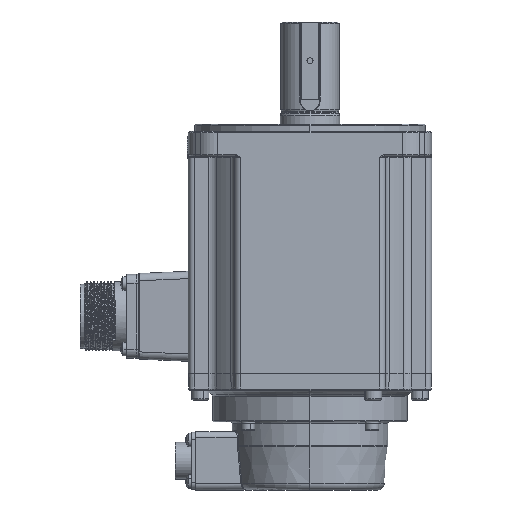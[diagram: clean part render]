
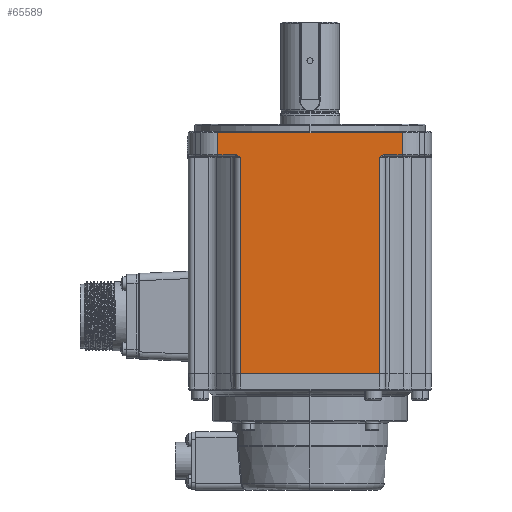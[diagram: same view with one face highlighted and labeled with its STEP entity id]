
A CAD part, left-side view. The second image highlights one B-rep face of the part: STEP entity #65589.
In plain terms, the highlighted planar face has unit normal (-1, 0, 0).
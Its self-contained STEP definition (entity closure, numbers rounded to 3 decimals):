
#1722 = CARTESIAN_POINT ( 'NONE',  ( -50., 37.858, -12.6 ) ) ;
#2697 = CARTESIAN_POINT ( 'NONE',  ( -50., -42., -12.6 ) ) ;
#4086 = EDGE_CURVE ( 'NONE', #58846, #28139, #80618, .T. ) ;
#4144 = CARTESIAN_POINT ( 'NONE',  ( -50., 28.5, -102.5 ) ) ;
#5948 = ORIENTED_EDGE ( 'NONE', *, *, #13281, .T. ) ;
#9329 = VERTEX_POINT ( 'NONE', #71200 ) ;
#10198 = DIRECTION ( 'NONE',  ( 0., -1., 0. ) ) ;
#11685 = VERTEX_POINT ( 'NONE', #65657 ) ;
#11743 = AXIS2_PLACEMENT_3D ( 'NONE', #90183, #45332, #60284 ) ;
#12784 = CARTESIAN_POINT ( 'NONE',  ( -50., -42., -12.6 ) ) ;
#13281 = EDGE_CURVE ( 'NONE', #11685, #58846, #84600, .T. ) ;
#16007 = DIRECTION ( 'NONE',  ( 0., 0., 1. ) ) ;
#17004 = VECTOR ( 'NONE', #36254, 1000. ) ;
#18494 = ORIENTED_EDGE ( 'NONE', *, *, #4086, .T. ) ;
#18644 = EDGE_CURVE ( 'NONE', #37072, #78942, #25271, .T. ) ;
#25199 = CARTESIAN_POINT ( 'NONE',  ( -50., 28.5, -13.6 ) ) ;
#25271 = LINE ( 'NONE', #70653, #93391 ) ;
#25467 = ORIENTED_EDGE ( 'NONE', *, *, #46512, .T. ) ;
#26052 = LINE ( 'NONE', #49460, #56905 ) ;
#26533 = DIRECTION ( 'NONE',  ( 0., -1., 0. ) ) ;
#26849 = CARTESIAN_POINT ( 'NONE',  ( -50., -37.858, -3.5 ) ) ;
#28139 = VERTEX_POINT ( 'NONE', #70992 ) ;
#28411 = CARTESIAN_POINT ( 'NONE',  ( -50., 37.858, -3.5 ) ) ;
#29198 = CARTESIAN_POINT ( 'NONE',  ( -50., 28.5, -13.6 ) ) ;
#30775 = VERTEX_POINT ( 'NONE', #1722 ) ;
#30845 = LINE ( 'NONE', #98687, #32527 ) ;
#31311 = ORIENTED_EDGE ( 'NONE', *, *, #69241, .T. ) ;
#31554 = CARTESIAN_POINT ( 'NONE',  ( -50., 37.858, -3.5 ) ) ;
#31949 = EDGE_CURVE ( 'NONE', #53447, #45245, #50346, .T. ) ;
#32000 = CARTESIAN_POINT ( 'NONE',  ( -50., -28.839, -13.36 ) ) ;
#32369 = EDGE_CURVE ( 'NONE', #30775, #9329, #39743, .T. ) ;
#32527 = VECTOR ( 'NONE', #83679, 1000. ) ;
#32671 = CARTESIAN_POINT ( 'NONE',  ( -50., 30.315, -12.6 ) ) ;
#33262 = DIRECTION ( 'NONE',  ( 0., 0., 1. ) ) ;
#34325 = CARTESIAN_POINT ( 'NONE',  ( -50., -37.858, -310.121 ) ) ;
#35424 = PLANE ( 'NONE',  #11743 ) ;
#35434 = DIRECTION ( 'NONE',  ( 0., 1., 0. ) ) ;
#36254 = DIRECTION ( 'NONE',  ( 0., -1., 0. ) ) ;
#37072 = VERTEX_POINT ( 'NONE', #4144 ) ;
#37449 = EDGE_CURVE ( 'NONE', #37072, #45017, #26052, .T. ) ;
#39743 = LINE ( 'NONE', #2697, #55356 ) ;
#40622 = ORIENTED_EDGE ( 'NONE', *, *, #31949, .T. ) ;
#42321 = DIRECTION ( 'NONE',  ( 0., 0., 1. ) ) ;
#42848 = ORIENTED_EDGE ( 'NONE', *, *, #37449, .T. ) ;
#45017 = VERTEX_POINT ( 'NONE', #54254 ) ;
#45245 = VERTEX_POINT ( 'NONE', #31554 ) ;
#45332 = DIRECTION ( 'NONE',  ( -1., 0., 0. ) ) ;
#45497 = CARTESIAN_POINT ( 'NONE',  ( -50., -30.736, -12.6 ) ) ;
#46054 = ORIENTED_EDGE ( 'NONE', *, *, #66280, .T. ) ;
#46411 = CARTESIAN_POINT ( 'NONE',  ( -50., -28.5, -168.7 ) ) ;
#46512 = EDGE_CURVE ( 'NONE', #9329, #78942, #77594, .T. ) ;
#49460 = CARTESIAN_POINT ( 'NONE',  ( -50., -42., -102.5 ) ) ;
#50346 = LINE ( 'NONE', #28411, #71394 ) ;
#51265 = EDGE_CURVE ( 'NONE', #45017, #11685, #81935, .T. ) ;
#53062 = ORIENTED_EDGE ( 'NONE', *, *, #51265, .T. ) ;
#53446 = CARTESIAN_POINT ( 'NONE',  ( -50., -29.912, -12.743 ) ) ;
#53447 = VERTEX_POINT ( 'NONE', #26849 ) ;
#54254 = CARTESIAN_POINT ( 'NONE',  ( -50., -28.5, -102.5 ) ) ;
#54891 = VECTOR ( 'NONE', #42321, 1000. ) ;
#55113 = CARTESIAN_POINT ( 'NONE',  ( -50., 28.839, -13.36 ) ) ;
#55356 = VECTOR ( 'NONE', #10198, 1000. ) ;
#56905 = VECTOR ( 'NONE', #26533, 1000. ) ;
#58846 = VERTEX_POINT ( 'NONE', #88994 ) ;
#60284 = DIRECTION ( 'NONE',  ( 0., -1., 0. ) ) ;
#62449 = CARTESIAN_POINT ( 'NONE',  ( -50., -30.315, -12.6 ) ) ;
#64985 = ORIENTED_EDGE ( 'NONE', *, *, #32369, .T. ) ;
#65333 = FACE_OUTER_BOUND ( 'NONE', #91812, .T. ) ;
#65589 = ADVANCED_FACE ( 'NONE', ( #65333 ), #35424, .T. ) ;
#65657 = CARTESIAN_POINT ( 'NONE',  ( -50., -28.5, -13.6 ) ) ;
#66280 = EDGE_CURVE ( 'NONE', #28139, #53447, #87112, .T. ) ;
#69241 = EDGE_CURVE ( 'NONE', #45245, #30775, #30845, .T. ) ;
#70001 = ORIENTED_EDGE ( 'NONE', *, *, #18644, .F. ) ;
#70585 = CARTESIAN_POINT ( 'NONE',  ( -50., 29.912, -12.743 ) ) ;
#70653 = CARTESIAN_POINT ( 'NONE',  ( -50., 28.5, -168.7 ) ) ;
#70992 = CARTESIAN_POINT ( 'NONE',  ( -50., -37.858, -12.6 ) ) ;
#71200 = CARTESIAN_POINT ( 'NONE',  ( -50., 30.736, -12.6 ) ) ;
#71394 = VECTOR ( 'NONE', #35434, 1000. ) ;
#72843 = VECTOR ( 'NONE', #16007, 1000. ) ;
#77594 = B_SPLINE_CURVE_WITH_KNOTS ( 'NONE', 3,
 ( #86507, #32671, #70585, #93526, #55113, #25199 ),
 .UNSPECIFIED., .F., .F.,
 ( 4, 2, 4 ),
 ( 0., 0.001, 0.002 ),
 .UNSPECIFIED. ) ;
#78942 = VERTEX_POINT ( 'NONE', #29198 ) ;
#80618 = LINE ( 'NONE', #12784, #17004 ) ;
#81935 = LINE ( 'NONE', #46411, #72843 ) ;
#83679 = DIRECTION ( 'NONE',  ( 0., 0., -1. ) ) ;
#84600 = B_SPLINE_CURVE_WITH_KNOTS ( 'NONE', 3,
 ( #91382, #32000, #90879, #53446, #62449, #45497 ),
 .UNSPECIFIED., .F., .F.,
 ( 4, 2, 4 ),
 ( 0., 0.001, 0.002 ),
 .UNSPECIFIED. ) ;
#86507 = CARTESIAN_POINT ( 'NONE',  ( -50., 30.736, -12.6 ) ) ;
#87112 = LINE ( 'NONE', #34325, #54891 ) ;
#88994 = CARTESIAN_POINT ( 'NONE',  ( -50., -30.736, -12.6 ) ) ;
#90183 = CARTESIAN_POINT ( 'NONE',  ( -50., -42., -310.121 ) ) ;
#90879 = CARTESIAN_POINT ( 'NONE',  ( -50., -29.178, -13.12 ) ) ;
#91382 = CARTESIAN_POINT ( 'NONE',  ( -50., -28.5, -13.6 ) ) ;
#91812 = EDGE_LOOP ( 'NONE', ( #70001, #42848, #53062, #5948, #18494, #46054, #40622, #31311, #64985, #25467 ) ) ;
#93391 = VECTOR ( 'NONE', #33262, 1000. ) ;
#93526 = CARTESIAN_POINT ( 'NONE',  ( -50., 29.178, -13.12 ) ) ;
#98687 = CARTESIAN_POINT ( 'NONE',  ( -50., 37.858, -310.121 ) ) ;
